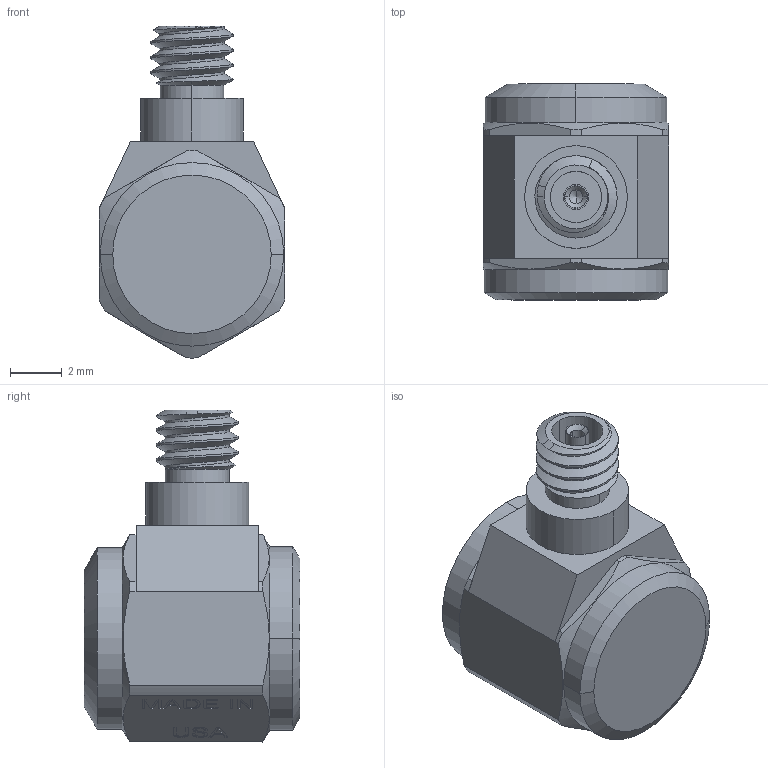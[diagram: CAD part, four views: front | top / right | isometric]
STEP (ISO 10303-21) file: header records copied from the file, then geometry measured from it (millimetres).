
FILE_DESCRIPTION (( 'STEP AP214' ), '1' );
FILE_NAME ('3035BXG.STEP', '2018-02-27T00:59:16', ( 'DYTRAN' ), ( 'BOXX Technologies, Inc.' ), 'SwSTEP 2.0', 'SolidWorks 2016', '' );
FILE_SCHEMA (( 'AUTOMOTIVE_DESIGN' ));
Length unit declared in the file: inch
Products named in the file (2): 3035BXG
Bounding box: 7.14 x 8.33 x 12.81 mm (x, y, z)
Volume: 403.8 mm3; surface area: 382.7 mm2
Topology: 1 solids, 1 shells, 464 faces, 1252 edges, 829 vertices
Faces by surface type: plane 273, bspline 141, cylinder 33, cone 17
Entity records: 27291 total; most frequent: CARTESIAN_POINT 10560, ORIENTED_EDGE 2500, DIRECTION 1652, EDGE_CURVE 1250, LINE 864, VECTOR 864, VERTEX_POINT 829, EDGE_LOOP 505
